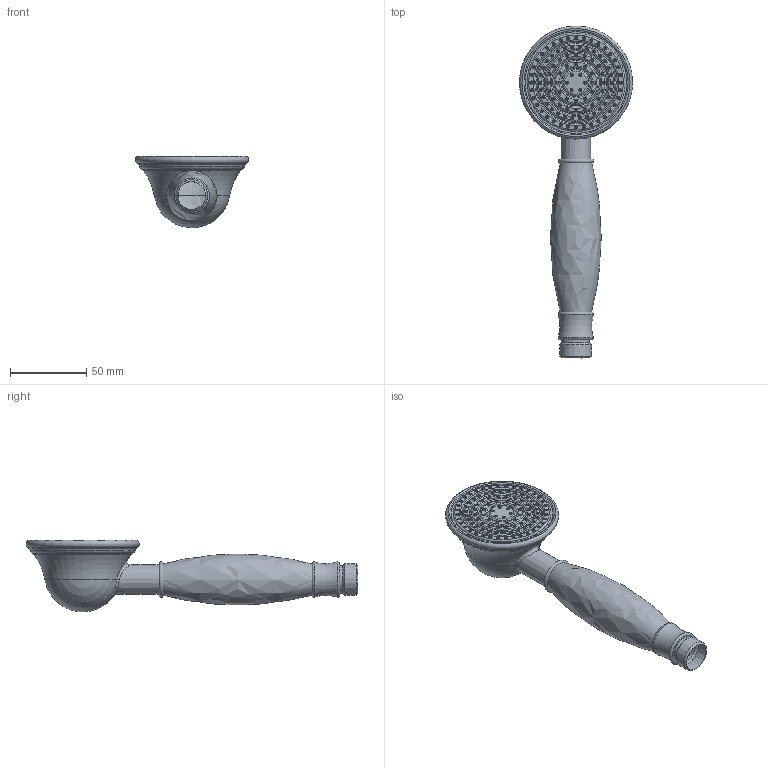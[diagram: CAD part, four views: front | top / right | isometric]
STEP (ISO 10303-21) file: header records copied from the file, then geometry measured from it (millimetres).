
FILE_DESCRIPTION(/* description */ (''),/* implementation_level */ '2;1');
FILE_NAME(/* name */ 'c:\worker\convert-fusion-r05\tmp\job-1\9\output\files\958d9901-26f7-4171-9405-149609548d0d\eecad129-8544-4ee5-a500-3831e348755d.stp',/* time_stamp */ '2020-07-02T06:55:52+00:00',/* author */ (''),/* organization */ (''),/* preprocessor_version */ 'ST-DEVELOPER v18.1',/* originating_system */ 'Autodesk Translation Framework v9.3.0.1241',/* authorisation */ '');
FILE_SCHEMA (('AUTOMOTIVE_DESIGN { 1 0 10303 214 3 1 1 }'));
Length unit declared in the file: millimetre
Products named in the file (1): !Art Deco-R
Bounding box: 74 x 217.04 x 47.03 mm (x, y, z)
Volume: 181860.4 mm3; surface area: 36395.7 mm2
Topology: 1 solids, 1 shells, 467 faces, 914 edges, 615 vertices
Faces by surface type: plane 218, cylinder 208, torus 29, cone 8, bspline 3, sphere 1
Full cylindrical faces by diameter (mm): 1 x104, 2 x104
Entity records: 14522 total; most frequent: CARTESIAN_POINT 4319, DIRECTION 2397, ORIENTED_EDGE 1826, AXIS2_PLACEMENT_3D 1090, EDGE_CURVE 913, EDGE_LOOP 634, CIRCLE 625, VERTEX_POINT 615
